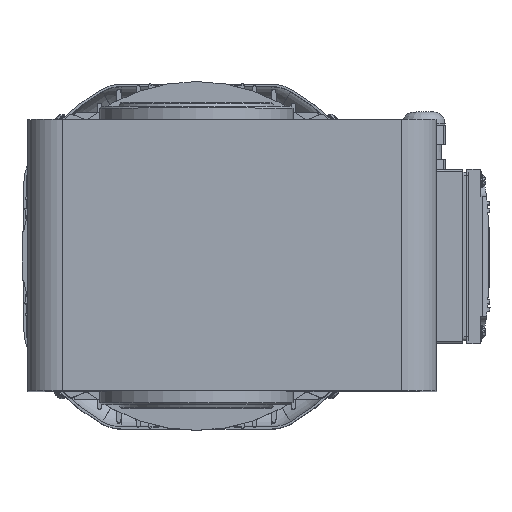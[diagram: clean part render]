
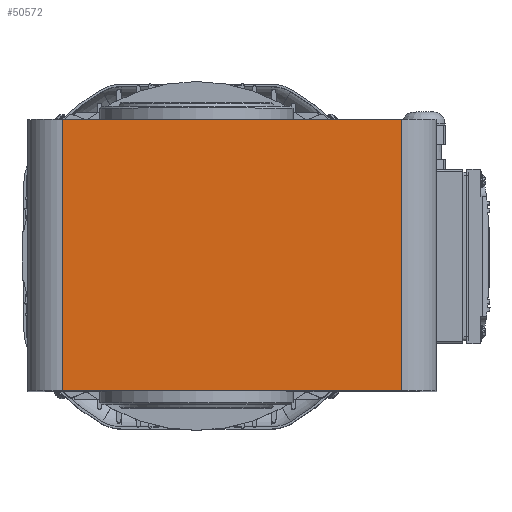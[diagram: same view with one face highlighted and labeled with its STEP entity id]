
A CAD part, top view. The second image highlights one B-rep face of the part: STEP entity #50572.
In plain terms, the highlighted planar face has unit normal (0, 0, 1) as drawn and (-1, 0, 0) by its records, which use the part's own axes.
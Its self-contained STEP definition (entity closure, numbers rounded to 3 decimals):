
#49948=CARTESIAN_POINT('',(0.,193.0,140.0));
#49949=VERTEX_POINT('',#49948);
#49957=CARTESIAN_POINT('',(0.,18.,140.0));
#49958=VERTEX_POINT('',#49957);
#49959=CARTESIAN_POINT('',(0.,18.0,140.0));
#49960=DIRECTION('',(0.0,1.0,0.0));
#49961=VECTOR('',#49960,175.0);
#49962=LINE('',#49959,#49961);
#49963=EDGE_CURVE('',#49958,#49949,#49962,.T.);
#50530=CARTESIAN_POINT('',(0.,18.,0.0));
#50531=VERTEX_POINT('',#50530);
#50532=CARTESIAN_POINT('',(0.,18.,140.0));
#50533=DIRECTION('',(0.0,0.0,-1.0));
#50534=VECTOR('',#50533,140.0);
#50535=LINE('',#50532,#50534);
#50536=EDGE_CURVE('',#49958,#50531,#50535,.T.);
#50549=CARTESIAN_POINT('',(0.0,0.0,0.0));
#50550=DIRECTION('',(-1.0,0.0,0.0));
#50551=DIRECTION('',(0.0,0.0,1.0));
#50552=AXIS2_PLACEMENT_3D('',#50549,#50550,#50551);
#50553=PLANE('',#50552);
#50554=ORIENTED_EDGE('',*,*,#50536,.F.);
#50555=ORIENTED_EDGE('',*,*,#49963,.T.);
#50556=CARTESIAN_POINT('',(0.,193.0,0.0));
#50557=VERTEX_POINT('',#50556);
#50558=CARTESIAN_POINT('',(0.,193.0,0.0));
#50559=DIRECTION('',(0.0,0.0,1.0));
#50560=VECTOR('',#50559,140.0);
#50561=LINE('',#50558,#50560);
#50562=EDGE_CURVE('',#50557,#49949,#50561,.T.);
#50563=ORIENTED_EDGE('',*,*,#50562,.F.);
#50564=CARTESIAN_POINT('',(0.,193.0,0.0));
#50565=DIRECTION('',(0.0,-1.0,0.0));
#50566=VECTOR('',#50565,175.0);
#50567=LINE('',#50564,#50566);
#50568=EDGE_CURVE('',#50557,#50531,#50567,.T.);
#50569=ORIENTED_EDGE('',*,*,#50568,.T.);
#50570=EDGE_LOOP('',(#50554,#50555,#50563,#50569));
#50571=FACE_OUTER_BOUND('',#50570,.T.);
#50572=ADVANCED_FACE('',(#50571),#50553,.T.);
